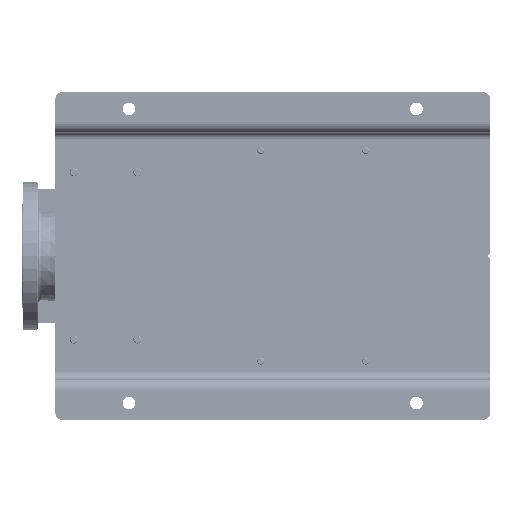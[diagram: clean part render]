
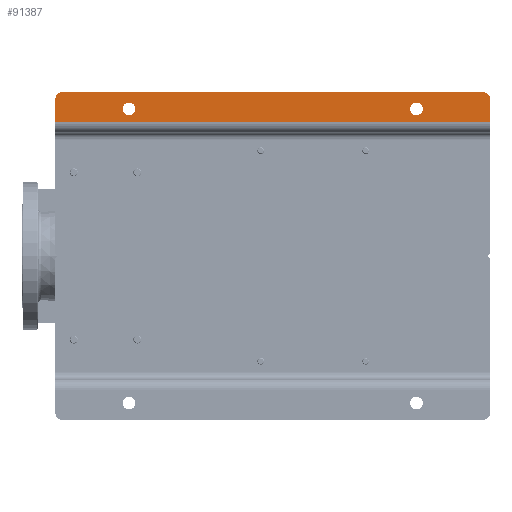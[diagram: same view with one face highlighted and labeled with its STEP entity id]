
A CAD part, front view. The second image highlights one B-rep face of the part: STEP entity #91387.
In plain terms, the highlighted planar face has unit normal (0, -1, 0).
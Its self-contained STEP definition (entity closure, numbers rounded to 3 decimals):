
#1771 = DIRECTION ( 'NONE',  ( 0., 0., -1. ) ) ;
#5306 = EDGE_CURVE ( 'NONE', #198875, #69233, #136975, .T. ) ;
#6783 = DIRECTION ( 'NONE',  ( 0., 0., -1. ) ) ;
#10503 = VERTEX_POINT ( 'NONE', #166474 ) ;
#10984 = AXIS2_PLACEMENT_3D ( 'NONE', #80853, #143175, #79793 ) ;
#12763 = EDGE_CURVE ( 'NONE', #113419, #28117, #109734, .T. ) ;
#15352 = FACE_BOUND ( 'NONE', #181572, .T. ) ;
#16965 = EDGE_LOOP ( 'NONE', ( #60585, #202941 ) ) ;
#18685 = VERTEX_POINT ( 'NONE', #128782 ) ;
#24508 = LINE ( 'NONE', #25580, #27168 ) ;
#25580 = CARTESIAN_POINT ( 'NONE',  ( 429., 0., 0. ) ) ;
#27168 = VECTOR ( 'NONE', #139397, 1000. ) ;
#28117 = VERTEX_POINT ( 'NONE', #100925 ) ;
#29720 = CARTESIAN_POINT ( 'NONE',  ( 474.5, 0., -110. ) ) ;
#30134 = EDGE_LOOP ( 'NONE', ( #124152, #115719, #67672, #174744, #88391, #126608 ) ) ;
#31215 = LINE ( 'NONE', #46258, #155050 ) ;
#32521 = FACE_BOUND ( 'NONE', #16965, .T. ) ;
#34098 = AXIS2_PLACEMENT_3D ( 'NONE', #190795, #94131, #43651 ) ;
#35047 = DIRECTION ( 'NONE',  ( 0., 1., 0. ) ) ;
#35082 = EDGE_CURVE ( 'NONE', #10503, #137909, #31215, .T. ) ;
#40580 = AXIS2_PLACEMENT_3D ( 'NONE', #163457, #96880, #97960 ) ;
#43651 = DIRECTION ( 'NONE',  ( 0., 0., -1. ) ) ;
#44378 = FACE_OUTER_BOUND ( 'NONE', #30134, .T. ) ;
#46258 = CARTESIAN_POINT ( 'NONE',  ( 445., 0., -650. ) ) ;
#48612 = PLANE ( 'NONE',  #10984 ) ;
#52622 = DIRECTION ( 'NONE',  ( 1., 0., 0. ) ) ;
#57293 = DIRECTION ( 'NONE',  ( 0., 0., 1. ) ) ;
#60585 = ORIENTED_EDGE ( 'NONE', *, *, #85894, .T. ) ;
#67672 = ORIENTED_EDGE ( 'NONE', *, *, #93503, .T. ) ;
#69233 = VERTEX_POINT ( 'NONE', #187855 ) ;
#71020 = DIRECTION ( 'NONE',  ( 0., 1., 0. ) ) ;
#75555 = CARTESIAN_POINT ( 'NONE',  ( 465., 0., -540. ) ) ;
#77387 = AXIS2_PLACEMENT_3D ( 'NONE', #106610, #104505, #6783 ) ;
#79784 = DIRECTION ( 'NONE',  ( 0., 1., 0. ) ) ;
#79793 = DIRECTION ( 'NONE',  ( 0., 0., -1. ) ) ;
#80853 = CARTESIAN_POINT ( 'NONE',  ( 429., 0., -650. ) ) ;
#84313 = VECTOR ( 'NONE', #52622, 1000. ) ;
#85225 = CIRCLE ( 'NONE', #205268, 9.5 ) ;
#85721 = EDGE_CURVE ( 'NONE', #18685, #150497, #109255, .T. ) ;
#85894 = EDGE_CURVE ( 'NONE', #28117, #113419, #85225, .T. ) ;
#85897 = LINE ( 'NONE', #199737, #84313 ) ;
#88391 = ORIENTED_EDGE ( 'NONE', *, *, #208549, .T. ) ;
#91387 = ADVANCED_FACE ( 'NONE', ( #15352, #32521, #44378 ), #48612, .T. ) ;
#93503 = EDGE_CURVE ( 'NONE', #137909, #184841, #85897, .T. ) ;
#94131 = DIRECTION ( 'NONE',  ( 0., 1., 0. ) ) ;
#96880 = DIRECTION ( 'NONE',  ( 0., -1., 0. ) ) ;
#97960 = DIRECTION ( 'NONE',  ( 0., 0., -1. ) ) ;
#100925 = CARTESIAN_POINT ( 'NONE',  ( 455.5, 0., -540. ) ) ;
#104292 = DIRECTION ( 'NONE',  ( 0., 0., -1. ) ) ;
#104505 = DIRECTION ( 'NONE',  ( 0., -1., 0. ) ) ;
#106610 = CARTESIAN_POINT ( 'NONE',  ( 480., 0., -640. ) ) ;
#109255 = CIRCLE ( 'NONE', #40580, 10. ) ;
#109734 = CIRCLE ( 'NONE', #133838, 9.5 ) ;
#113419 = VERTEX_POINT ( 'NONE', #172326 ) ;
#113540 = VECTOR ( 'NONE', #57293, 1000. ) ;
#115719 = ORIENTED_EDGE ( 'NONE', *, *, #35082, .T. ) ;
#121463 = CARTESIAN_POINT ( 'NONE',  ( 465., 0., -540. ) ) ;
#124152 = ORIENTED_EDGE ( 'NONE', *, *, #155657, .F. ) ;
#125975 = DIRECTION ( 'NONE',  ( 0., 0., -1. ) ) ;
#126608 = ORIENTED_EDGE ( 'NONE', *, *, #85721, .T. ) ;
#128782 = CARTESIAN_POINT ( 'NONE',  ( 490., 0., -10. ) ) ;
#133838 = AXIS2_PLACEMENT_3D ( 'NONE', #75555, #79784, #125975 ) ;
#136975 = CIRCLE ( 'NONE', #34098, 9.5 ) ;
#137909 = VERTEX_POINT ( 'NONE', #206998 ) ;
#139397 = DIRECTION ( 'NONE',  ( 1., 0., 0. ) ) ;
#142401 = AXIS2_PLACEMENT_3D ( 'NONE', #167110, #35047, #1771 ) ;
#143175 = DIRECTION ( 'NONE',  ( 0., -1., 0. ) ) ;
#150497 = VERTEX_POINT ( 'NONE', #153262 ) ;
#150787 = VERTEX_POINT ( 'NONE', #153790 ) ;
#153262 = CARTESIAN_POINT ( 'NONE',  ( 480., 0., 0. ) ) ;
#153790 = CARTESIAN_POINT ( 'NONE',  ( 490., 0., -640. ) ) ;
#155050 = VECTOR ( 'NONE', #190216, 1000. ) ;
#155657 = EDGE_CURVE ( 'NONE', #10503, #150497, #24508, .T. ) ;
#156064 = CIRCLE ( 'NONE', #142401, 9.5 ) ;
#163457 = CARTESIAN_POINT ( 'NONE',  ( 480., 0., -10. ) ) ;
#166474 = CARTESIAN_POINT ( 'NONE',  ( 445., 0., 0. ) ) ;
#167110 = CARTESIAN_POINT ( 'NONE',  ( 465., 0., -110. ) ) ;
#167215 = ORIENTED_EDGE ( 'NONE', *, *, #167246, .T. ) ;
#167246 = EDGE_CURVE ( 'NONE', #69233, #198875, #156064, .T. ) ;
#170429 = CARTESIAN_POINT ( 'NONE',  ( 480., 0., -650. ) ) ;
#172326 = CARTESIAN_POINT ( 'NONE',  ( 474.5, 0., -540. ) ) ;
#174104 = ORIENTED_EDGE ( 'NONE', *, *, #5306, .T. ) ;
#174267 = LINE ( 'NONE', #206537, #113540 ) ;
#174744 = ORIENTED_EDGE ( 'NONE', *, *, #205584, .T. ) ;
#181572 = EDGE_LOOP ( 'NONE', ( #167215, #174104 ) ) ;
#184841 = VERTEX_POINT ( 'NONE', #170429 ) ;
#187855 = CARTESIAN_POINT ( 'NONE',  ( 455.5, 0., -110. ) ) ;
#190216 = DIRECTION ( 'NONE',  ( 0., 0., -1. ) ) ;
#190795 = CARTESIAN_POINT ( 'NONE',  ( 465., 0., -110. ) ) ;
#193888 = CIRCLE ( 'NONE', #77387, 10. ) ;
#198875 = VERTEX_POINT ( 'NONE', #29720 ) ;
#199737 = CARTESIAN_POINT ( 'NONE',  ( 429., 0., -650. ) ) ;
#202941 = ORIENTED_EDGE ( 'NONE', *, *, #12763, .T. ) ;
#205268 = AXIS2_PLACEMENT_3D ( 'NONE', #121463, #71020, #104292 ) ;
#205584 = EDGE_CURVE ( 'NONE', #184841, #150787, #193888, .T. ) ;
#206537 = CARTESIAN_POINT ( 'NONE',  ( 490., 0., -650. ) ) ;
#206998 = CARTESIAN_POINT ( 'NONE',  ( 445., 0., -650. ) ) ;
#208549 = EDGE_CURVE ( 'NONE', #150787, #18685, #174267, .T. ) ;
